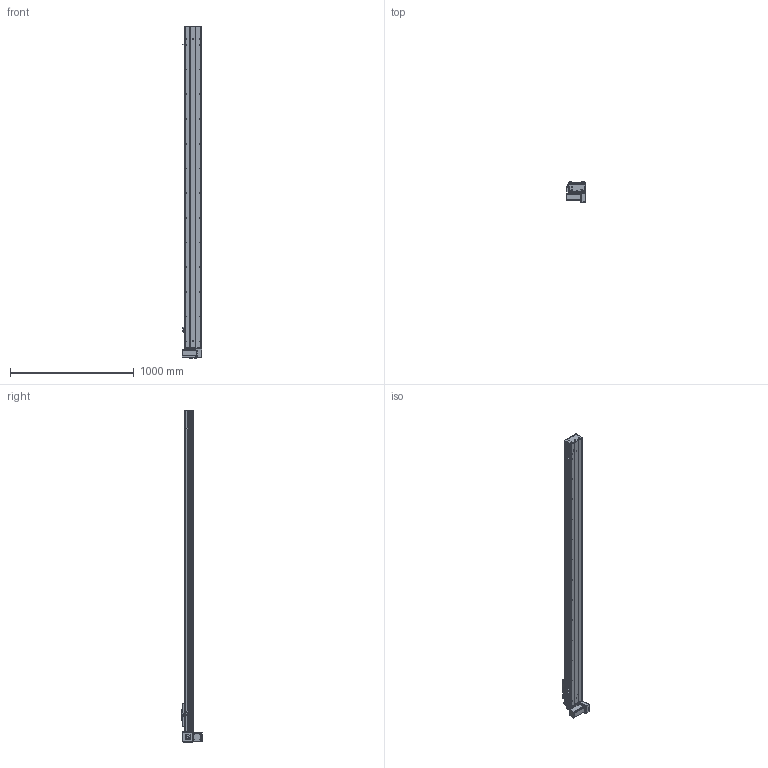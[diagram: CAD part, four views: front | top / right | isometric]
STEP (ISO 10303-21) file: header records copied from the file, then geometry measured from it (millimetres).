
FILE_DESCRIPTION (( 'STEP AP203' ), '1' );
FILE_NAME ('Y135CB-D90-S2300-BM-P400W.STEP', '2020-02-19T01:47:52', ( '微软用户' ), ( '微软中国' ), 'SwSTEP 2.0', 'SolidWorks 2017', '' );
FILE_SCHEMA (( 'CONFIG_CONTROL_DESIGN' ));
Length unit declared in the file: millimetre
Products named in the file (18): C-詩湍揤踡え-陔; Y135CB-耜裔; Y135CB-D90-S2300-BM-P400W; 135CB--詩湍-CE; 135CB---遴掛极.-; Y100-135俋离換覜ん--; 35CB---喘謫眊楊擘啣; Y135C-陔俋离換覜結え-; 0B-埴倛裔啣; 5C--俋欶; 0B-源倛裔啣; C-雄赽釱--; 0B-萇儂楊擘啣; Y10B--々湍喘謫眊--666; san松下电机400不带刹车----; 00B-俋欶BM--; 5CB --掛极耜裔啣-; Y10B-耜蚾蟀諉啣----
Assembly tree (21 placements, depth 2):
  Y135CB-D90-S2300-BM-P400W
    Y135CB-耜裔
    135CB---遴掛极.-
    35CB---喘謫眊楊擘啣
    0B-埴倛裔啣
    0B-源倛裔啣
    0B-萇儂楊擘啣
    san松下电机400不带刹车----
    5CB --掛极耜裔啣-  x2
    C-詩湍揤踡え-陔  x2
    135CB--詩湍-CE
    Y100-135俋离換覜ん--  x3
    Y135C-陔俋离換覜結え-
    5C--俋欶
    C-雄赽釱--
    Y10B--々湍喘謫眊--666
    00B-俋欶BM--
    Y10B-耜蚾蟀諉啣----
Bounding box: 157 x 163.3 x 2688 mm (x, y, z)
Volume: 7762323.4 mm3; surface area: 3071550.7 mm2
Topology: 21 solids, 21 shells, 973 faces, 2653 edges, 1758 vertices
Faces by surface type: cylinder 501, plane 456, cone 16
Entity records: 30763 total; most frequent: CARTESIAN_POINT 5120, DIRECTION 5113, ORIENTED_EDGE 4782, EDGE_CURVE 2391, AXIS2_PLACEMENT_3D 1875, VERTEX_POINT 1586, LINE 1363, VECTOR 1363
